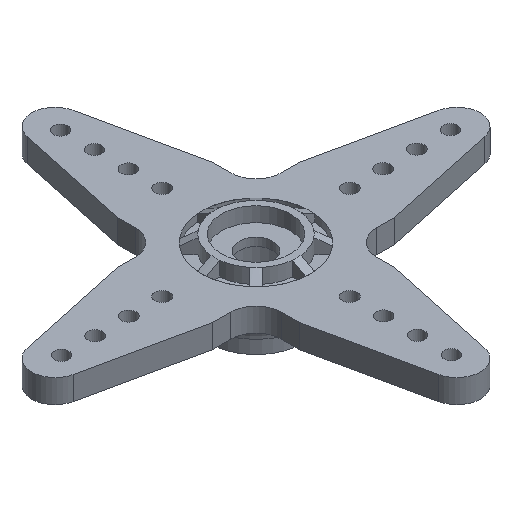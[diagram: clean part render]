
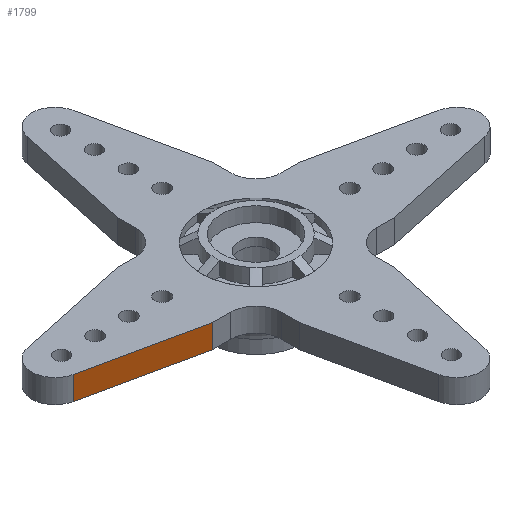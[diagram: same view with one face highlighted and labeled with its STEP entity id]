
A CAD part, isometric view. The second image highlights one B-rep face of the part: STEP entity #1799.
In plain terms, the highlighted planar face has unit normal (-0.211, -0.978, 0).
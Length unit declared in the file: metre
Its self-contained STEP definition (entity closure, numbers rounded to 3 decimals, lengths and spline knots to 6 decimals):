
#42=LINE('',#3029,#146);
#43=LINE('',#3031,#147);
#44=LINE('',#3033,#148);
#45=LINE('',#3035,#149);
#146=VECTOR('',#2409,1.);
#147=VECTOR('',#2412,1.);
#148=VECTOR('',#2413,1.);
#149=VECTOR('',#2414,1.);
#452=ORIENTED_EDGE('',*,*,#956,.F.);
#453=ORIENTED_EDGE('',*,*,#955,.F.);
#454=ORIENTED_EDGE('',*,*,#957,.T.);
#455=ORIENTED_EDGE('',*,*,#958,.T.);
#955=EDGE_CURVE('',#1198,#1197,#42,.T.);
#956=EDGE_CURVE('',#1197,#1199,#43,.T.);
#957=EDGE_CURVE('',#1198,#1200,#44,.T.);
#958=EDGE_CURVE('',#1200,#1199,#45,.T.);
#1197=VERTEX_POINT('',#3026);
#1198=VERTEX_POINT('',#3028);
#1199=VERTEX_POINT('',#3032);
#1200=VERTEX_POINT('',#3034);
#1460=EDGE_LOOP('',(#452,#453,#454,#455));
#1616=FACE_BOUND('',#1460,.T.);
#1732=PLANE('',#2009);
#1799=ADVANCED_FACE('',(#1616),#1732,.T.);
#2009=AXIS2_PLACEMENT_3D('',#3030,#2410,#2411);
#2409=DIRECTION('',(0.,0.,1.));
#2410=DIRECTION('',(-0.211,-0.977,0.));
#2411=DIRECTION('',(0.,0.,-1.));
#2412=DIRECTION('',(0.977,-0.211,0.));
#2413=DIRECTION('',(0.977,-0.211,0.));
#2414=DIRECTION('',(0.,0.,1.));
#3026=CARTESIAN_POINT('',(-0.017804,-0.001984,0.));
#3028=CARTESIAN_POINT('',(-0.017804,-0.001984,-0.002032));
#3029=CARTESIAN_POINT('',(-0.017804,-0.001984,-0.001016));
#3030=CARTESIAN_POINT('',(-0.017814,-0.001982,0.00001));
#3031=CARTESIAN_POINT('',(-0.012839,-0.003056,0.));
#3032=CARTESIAN_POINT('',(-0.007873,-0.004128,0.));
#3033=CARTESIAN_POINT('',(-0.012839,-0.003056,-0.002032));
#3034=CARTESIAN_POINT('',(-0.007873,-0.004128,-0.002032));
#3035=CARTESIAN_POINT('',(-0.007873,-0.004128,-0.001016));
